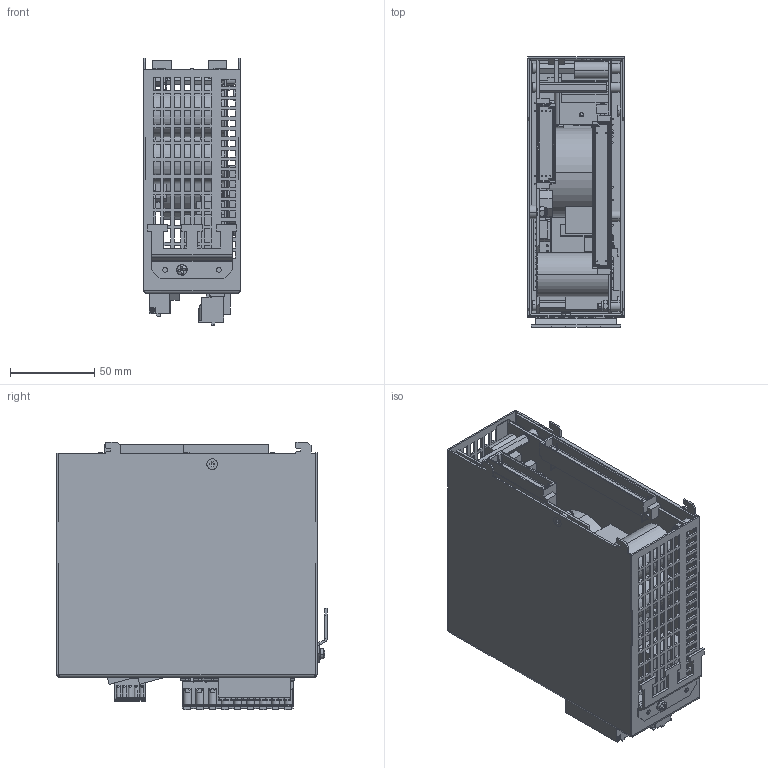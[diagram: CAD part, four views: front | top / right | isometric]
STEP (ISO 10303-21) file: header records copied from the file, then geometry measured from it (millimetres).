
FILE_DESCRIPTION (( 'STEP AP203' ), '1' );
FILE_NAME ('extern3d_09-403-101_MDP101_20100330.STEP', '2010-03-30T07:26:15', ( 'Anwender' ), ( 'SIGMATEK GMBH & CO KG' ), 'SwSTEP 2.0', 'SolidWorks 2009', '' );
FILE_SCHEMA (( 'CONFIG_CONTROL_DESIGN' ));
Products named in the file (1): extern3d_09-403-101_MDP101_20100330
Bounding box: 57.3 x 160.6 x 158.86 mm (x, y, z)
Volume: 434138.5 mm3; surface area: 385779.7 mm2
Topology: 58 solids, 71 shells, 6717 faces, 17110 edges, 10915 vertices
Faces by surface type: plane 4854, cylinder 1489, cone 268, bspline 56, torus 40, sphere 10
Entity records: 204567 total; most frequent: CARTESIAN_POINT 40595, ORIENTED_EDGE 34148, DIRECTION 33055, EDGE_CURVE 17074, VECTOR 12897, LINE 12897, VERTEX_POINT 10903, AXIS2_PLACEMENT_3D 10079
